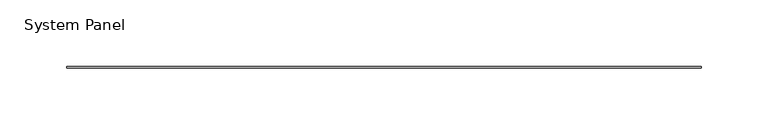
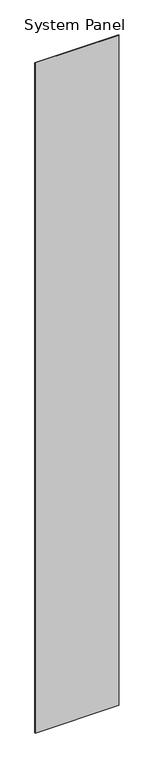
"""IFC4 building model written with IfcOpenShell, lengths in millimetres: plate geometry, System Panel : Stratco_Hiland_Interlock_Panel."""

from ifc_helpers import new_model, si_unit, origin, origin_with_axes, place, context, project, spatial, polyline, outline, extrude, source, transform, mapped, element, save


def system_panel_096fd5a5(model_context):
    return source(origin(), model_context, "Body", "SweptSolid", [
        extrude(outline(polyline([(236.9514014, 24.0), (-236.9514014, 24.0), (-236.9514014, 25.0), (236.9514014, 25.0), (236.9514014, 24.0)])), origin_with_axes(), (0.0, 0.0, 1.0), 4000.0),
    ])


if __name__ == "__main__":
    model = new_model("IFC4")
    model_context = context("Model", 3, world=origin())
    ifc_project = project(units=[si_unit("LENGTHUNIT", "METRE", prefix="MILLI")], contexts=[model_context])
    site = spatial("IfcSite", under=ifc_project)
    building = spatial("IfcBuilding", under=site)
    placement = place(None, origin())
    system_panel_shape = system_panel_096fd5a5(model_context)
    element("IfcPlate", 1, ObjectType="System Panel : Stratco_Hiland_Interlock_Panel", at=placement, inside=building, context=model_context, shape_type="MappedRepresentation", body=[
        mapped(system_panel_shape, transform((0.0, 0.0, 0.0), x_axis=(1.0, 0.0, 0.0), y_axis=(0.0, 1.0, 0.0), z_axis=(0.0, 0.0, 1.0))),
    ])
    save(model, "model.ifc")
